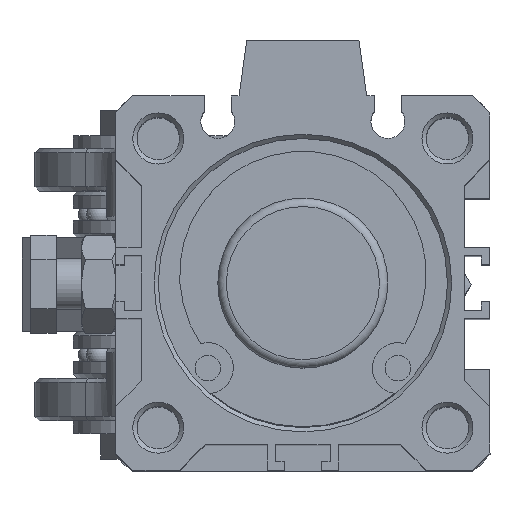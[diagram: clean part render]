
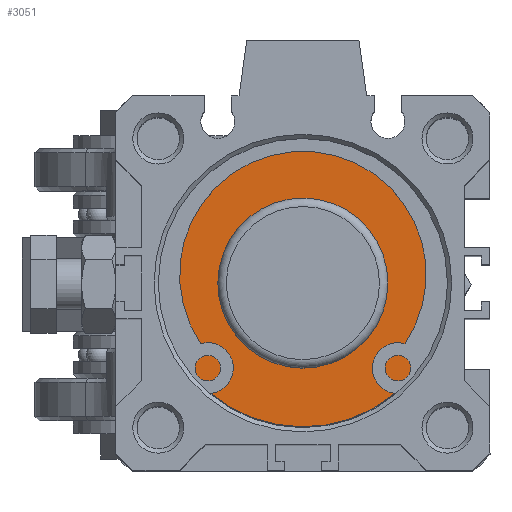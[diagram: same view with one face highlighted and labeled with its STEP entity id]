
A CAD part, top view. The second image highlights one B-rep face of the part: STEP entity #3051.
In plain terms, the highlighted planar face has unit normal (0, 0, 1).
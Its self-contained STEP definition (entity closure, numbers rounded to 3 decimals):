
#3051=ADVANCED_FACE('',(#3928,#3929),#3531,.F.);
#3531=PLANE('',#10746);
#3928=FACE_BOUND('',#4640,.T.);
#3929=FACE_BOUND('',#4641,.T.);
#4640=EDGE_LOOP('',(#6652));
#4641=EDGE_LOOP('',(#6653));
#6652=ORIENTED_EDGE('',*,*,#9330,.T.);
#6653=ORIENTED_EDGE('',*,*,#9329,.F.);
#8150=VERTEX_POINT('',#16563);
#8151=VERTEX_POINT('',#16566);
#9329=EDGE_CURVE('',#8150,#8150,#9988,.T.);
#9330=EDGE_CURVE('',#8151,#8151,#9989,.T.);
#9988=CIRCLE('',#10743,10.);
#9989=CIRCLE('',#10745,16.9);
#10743=AXIS2_PLACEMENT_3D('',#16562,#12924,#12925);
#10745=AXIS2_PLACEMENT_3D('',#16565,#12928,#12929);
#10746=AXIS2_PLACEMENT_3D('',#16567,#12930,#12931);
#12924=DIRECTION('',(0.,0.,1.));
#12925=DIRECTION('',(0.011,1.,0.));
#12928=DIRECTION('',(0.,0.,1.));
#12929=DIRECTION('',(0.011,1.,0.));
#12930=DIRECTION('',(0.,0.,-1.));
#12931=DIRECTION('',(0.011,1.,0.));
#16562=CARTESIAN_POINT('',(21.502,22.001,-3.3));
#16563=CARTESIAN_POINT('',(21.615,32.001,-3.3));
#16565=CARTESIAN_POINT('',(21.502,22.001,-3.3));
#16566=CARTESIAN_POINT('',(21.694,38.9,-3.3));
#16567=CARTESIAN_POINT('',(21.502,22.001,-3.3));
